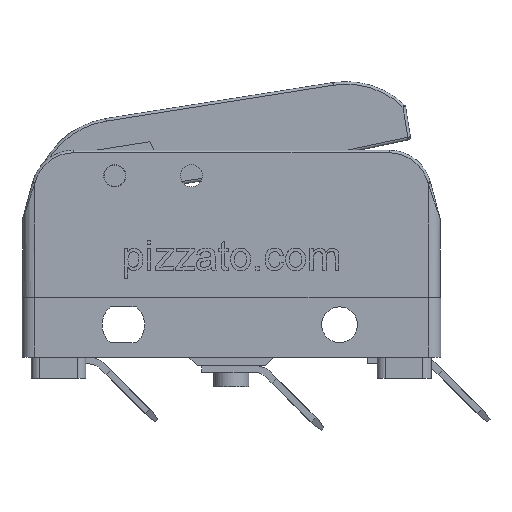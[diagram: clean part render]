
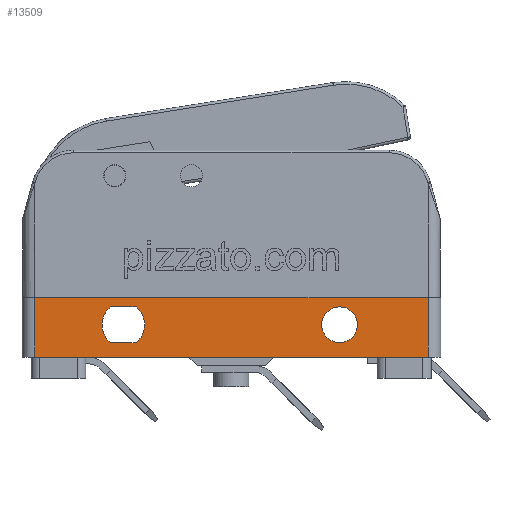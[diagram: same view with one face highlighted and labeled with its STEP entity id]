
A CAD part, front view. The second image highlights one B-rep face of the part: STEP entity #13509.
In plain terms, the highlighted planar face has unit normal (0, -1, 0).
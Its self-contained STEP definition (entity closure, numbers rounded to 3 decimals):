
#353 = DIRECTION ( 'NONE',  ( 0., -1., 0. ) ) ;
#406 = DIRECTION ( 'NONE',  ( 0., 0., 1. ) ) ;
#1001 = DIRECTION ( 'NONE',  ( 1., 0., 0. ) ) ;
#1342 = ORIENTED_EDGE ( 'NONE', *, *, #4456, .F. ) ;
#1516 = CARTESIAN_POINT ( 'NONE',  ( 12.7, -8.7, 3.8 ) ) ;
#1585 = DIRECTION ( 'NONE',  ( 1., 0., 0. ) ) ;
#1641 = VERTEX_POINT ( 'NONE', #11824 ) ;
#2016 = VERTEX_POINT ( 'NONE', #7681 ) ;
#2100 = CIRCLE ( 'NONE', #7201, 2.705 ) ;
#2503 = AXIS2_PLACEMENT_3D ( 'NONE', #5061, #13421, #6259 ) ;
#2701 = DIRECTION ( 'NONE',  ( 0., 0., -1. ) ) ;
#2743 = EDGE_CURVE ( 'NONE', #14751, #3732, #11584, .T. ) ;
#2744 = CARTESIAN_POINT ( 'NONE',  ( 12.7, -8.7, 5.9 ) ) ;
#2885 = EDGE_CURVE ( 'NONE', #12796, #3078, #4128, .T. ) ;
#2892 = VECTOR ( 'NONE', #1001, 1000. ) ;
#3004 = CARTESIAN_POINT ( 'NONE',  ( 23.1, -8.7, 0. ) ) ;
#3078 = VERTEX_POINT ( 'NONE', #11448 ) ;
#3085 = LINE ( 'NONE', #7506, #15390 ) ;
#3507 = CARTESIAN_POINT ( 'NONE',  ( -24.6, -8.7, 7. ) ) ;
#3732 = VERTEX_POINT ( 'NONE', #12183 ) ;
#3790 = CARTESIAN_POINT ( 'NONE',  ( -23.1, -8.7, 7. ) ) ;
#3869 = EDGE_CURVE ( 'NONE', #12796, #4742, #10929, .T. ) ;
#3949 = EDGE_CURVE ( 'NONE', #2016, #13225, #3085, .T. ) ;
#4032 = EDGE_LOOP ( 'NONE', ( #7054, #5124 ) ) ;
#4128 = LINE ( 'NONE', #3790, #13642 ) ;
#4137 = ORIENTED_EDGE ( 'NONE', *, *, #13293, .T. ) ;
#4209 = ORIENTED_EDGE ( 'NONE', *, *, #9657, .F. ) ;
#4237 = LINE ( 'NONE', #12803, #10560 ) ;
#4406 = CIRCLE ( 'NONE', #14169, 2.705 ) ;
#4456 = EDGE_CURVE ( 'NONE', #13225, #14680, #4406, .T. ) ;
#4742 = VERTEX_POINT ( 'NONE', #8042 ) ;
#4834 = DIRECTION ( 'NONE',  ( 0., -1., 0. ) ) ;
#5061 = CARTESIAN_POINT ( 'NONE',  ( -24.6, -8.7, 7. ) ) ;
#5110 = AXIS2_PLACEMENT_3D ( 'NONE', #1516, #9851, #2701 ) ;
#5124 = ORIENTED_EDGE ( 'NONE', *, *, #2743, .F. ) ;
#5243 = EDGE_LOOP ( 'NONE', ( #4137, #10898, #10027, #7771 ) ) ;
#5466 = CARTESIAN_POINT ( 'NONE',  ( -23.1, -8.7, 7. ) ) ;
#5960 = DIRECTION ( 'NONE',  ( 0., -1., 0. ) ) ;
#6180 = DIRECTION ( 'NONE',  ( 0., 0., -1. ) ) ;
#6259 = DIRECTION ( 'NONE',  ( 0., 0., 1. ) ) ;
#6844 = DIRECTION ( 'NONE',  ( -1., 0., 0. ) ) ;
#7054 = ORIENTED_EDGE ( 'NONE', *, *, #14260, .F. ) ;
#7201 = AXIS2_PLACEMENT_3D ( 'NONE', #13121, #5960, #14329 ) ;
#7475 = CARTESIAN_POINT ( 'NONE',  ( 12.7, -8.7, 3.8 ) ) ;
#7506 = CARTESIAN_POINT ( 'NONE',  ( -14.2, -8.7, 1.7 ) ) ;
#7516 = CIRCLE ( 'NONE', #5110, 2.1 ) ;
#7681 = CARTESIAN_POINT ( 'NONE',  ( -14.2, -8.7, 1.7 ) ) ;
#7723 = FACE_BOUND ( 'NONE', #10376, .T. ) ;
#7771 = ORIENTED_EDGE ( 'NONE', *, *, #2885, .T. ) ;
#7969 = VECTOR ( 'NONE', #406, 1000. ) ;
#8042 = CARTESIAN_POINT ( 'NONE',  ( 23.1, -8.7, 7. ) ) ;
#8556 = EDGE_CURVE ( 'NONE', #8680, #4742, #14332, .T. ) ;
#8677 = DIRECTION ( 'NONE',  ( 0., 0., -1. ) ) ;
#8680 = VERTEX_POINT ( 'NONE', #3004 ) ;
#8695 = ORIENTED_EDGE ( 'NONE', *, *, #14548, .F. ) ;
#9657 = EDGE_CURVE ( 'NONE', #14680, #1641, #4237, .T. ) ;
#9813 = PLANE ( 'NONE',  #2503 ) ;
#9851 = DIRECTION ( 'NONE',  ( 0., -1., 0. ) ) ;
#10027 = ORIENTED_EDGE ( 'NONE', *, *, #3869, .F. ) ;
#10180 = VECTOR ( 'NONE', #11847, 1000. ) ;
#10376 = EDGE_LOOP ( 'NONE', ( #11949, #8695, #4209, #1342 ) ) ;
#10521 = FACE_BOUND ( 'NONE', #4032, .T. ) ;
#10560 = VECTOR ( 'NONE', #6844, 1000. ) ;
#10898 = ORIENTED_EDGE ( 'NONE', *, *, #8556, .T. ) ;
#10929 = LINE ( 'NONE', #3507, #10180 ) ;
#11448 = CARTESIAN_POINT ( 'NONE',  ( -23.1, -8.7, 0. ) ) ;
#11584 = CIRCLE ( 'NONE', #12474, 2.1 ) ;
#11824 = CARTESIAN_POINT ( 'NONE',  ( -14.2, -8.7, 5.9 ) ) ;
#11847 = DIRECTION ( 'NONE',  ( 1., 0., 0. ) ) ;
#11949 = ORIENTED_EDGE ( 'NONE', *, *, #3949, .F. ) ;
#11991 = CARTESIAN_POINT ( 'NONE',  ( -12.905, -8.7, 3.8 ) ) ;
#12183 = CARTESIAN_POINT ( 'NONE',  ( 12.7, -8.7, 1.7 ) ) ;
#12422 = LINE ( 'NONE', #12745, #2892 ) ;
#12474 = AXIS2_PLACEMENT_3D ( 'NONE', #7475, #353, #8677 ) ;
#12745 = CARTESIAN_POINT ( 'NONE',  ( -24.6, -8.7, 0. ) ) ;
#12796 = VERTEX_POINT ( 'NONE', #5466 ) ;
#12803 = CARTESIAN_POINT ( 'NONE',  ( -14.2, -8.7, 5.9 ) ) ;
#13121 = CARTESIAN_POINT ( 'NONE',  ( -12.495, -8.7, 3.8 ) ) ;
#13201 = DIRECTION ( 'NONE',  ( 0., 0., -1. ) ) ;
#13225 = VERTEX_POINT ( 'NONE', #14899 ) ;
#13293 = EDGE_CURVE ( 'NONE', #3078, #8680, #12422, .T. ) ;
#13421 = DIRECTION ( 'NONE',  ( 0., 1., 0. ) ) ;
#13509 = ADVANCED_FACE ( 'NONE', ( #7723, #10521, #14084 ), #9813, .F. ) ;
#13642 = VECTOR ( 'NONE', #6180, 1000. ) ;
#14084 = FACE_OUTER_BOUND ( 'NONE', #5243, .T. ) ;
#14169 = AXIS2_PLACEMENT_3D ( 'NONE', #11991, #4834, #13201 ) ;
#14260 = EDGE_CURVE ( 'NONE', #3732, #14751, #7516, .T. ) ;
#14329 = DIRECTION ( 'NONE',  ( 0., 0., 1. ) ) ;
#14332 = LINE ( 'NONE', #14699, #7969 ) ;
#14548 = EDGE_CURVE ( 'NONE', #1641, #2016, #2100, .T. ) ;
#14577 = CARTESIAN_POINT ( 'NONE',  ( -11.2, -8.7, 5.9 ) ) ;
#14680 = VERTEX_POINT ( 'NONE', #14577 ) ;
#14699 = CARTESIAN_POINT ( 'NONE',  ( 23.1, -8.7, 7. ) ) ;
#14751 = VERTEX_POINT ( 'NONE', #2744 ) ;
#14899 = CARTESIAN_POINT ( 'NONE',  ( -11.2, -8.7, 1.7 ) ) ;
#15390 = VECTOR ( 'NONE', #1585, 1000. ) ;
